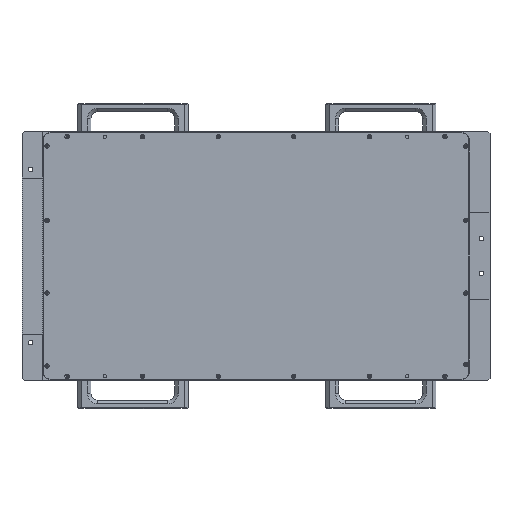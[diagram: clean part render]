
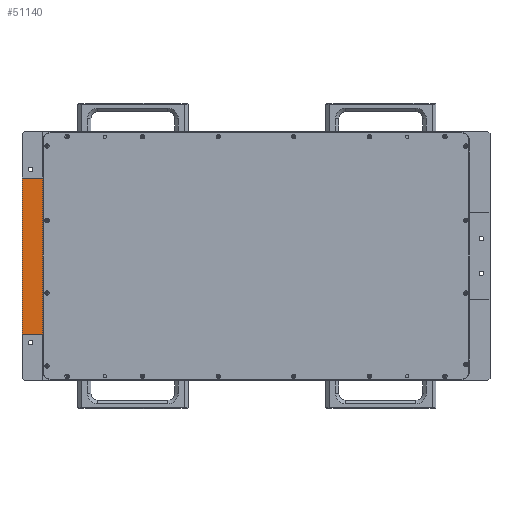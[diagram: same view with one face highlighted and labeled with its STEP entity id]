
A CAD part, front view. The second image highlights one B-rep face of the part: STEP entity #51140.
In plain terms, the highlighted planar face has unit normal (0, -1, 0).
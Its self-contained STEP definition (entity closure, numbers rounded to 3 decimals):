
#7473=PLANE('',#56333);
#10382=FACE_OUTER_BOUND('',#14580,.T.);
#14580=EDGE_LOOP('',(#45352,#45353,#45354,#45355));
#18276=LINE('',#105500,#21765);
#18472=LINE('',#106356,#21961);
#18473=LINE('',#106359,#21962);
#18474=LINE('',#106360,#21963);
#21765=VECTOR('',#68693,10.);
#21961=VECTOR('',#69461,10.);
#21962=VECTOR('',#69464,10.);
#21963=VECTOR('',#69465,10.);
#26512=VERTEX_POINT('',#105497);
#26513=VERTEX_POINT('',#105499);
#26693=VERTEX_POINT('',#106354);
#26694=VERTEX_POINT('',#106358);
#32826=EDGE_CURVE('',#26513,#26512,#18276,.T.);
#33135=EDGE_CURVE('',#26512,#26693,#18472,.T.);
#33136=EDGE_CURVE('',#26694,#26513,#18473,.T.);
#33137=EDGE_CURVE('',#26694,#26693,#18474,.T.);
#45352=ORIENTED_EDGE('',*,*,#33136,.T.);
#45353=ORIENTED_EDGE('',*,*,#32826,.T.);
#45354=ORIENTED_EDGE('',*,*,#33135,.T.);
#45355=ORIENTED_EDGE('',*,*,#33137,.F.);
#51140=ADVANCED_FACE('',(#10382),#7473,.F.);
#56333=AXIS2_PLACEMENT_3D('',#106357,#69462,#69463);
#68693=DIRECTION('',(0.,0.,-1.));
#69461=DIRECTION('',(1.,0.,0.));
#69462=DIRECTION('center_axis',(0.,1.,0.));
#69463=DIRECTION('ref_axis',(0.,0.,1.));
#69464=DIRECTION('',(-1.,0.,0.));
#69465=DIRECTION('',(0.,0.,-1.));
#105497=CARTESIAN_POINT('',(0.,0.5,-292.5));
#105499=CARTESIAN_POINT('',(0.,0.5,-67.5));
#105500=CARTESIAN_POINT('',(0.,0.5,-90.));
#106354=CARTESIAN_POINT('',(30.,0.5,-292.5));
#106356=CARTESIAN_POINT('',(11.25,0.5,-292.5));
#106357=CARTESIAN_POINT('Origin',(17.5,0.5,-180.));
#106358=CARTESIAN_POINT('',(30.,0.5,-67.5));
#106359=CARTESIAN_POINT('',(11.25,0.5,-67.5));
#106360=CARTESIAN_POINT('',(30.,0.5,-269.));
